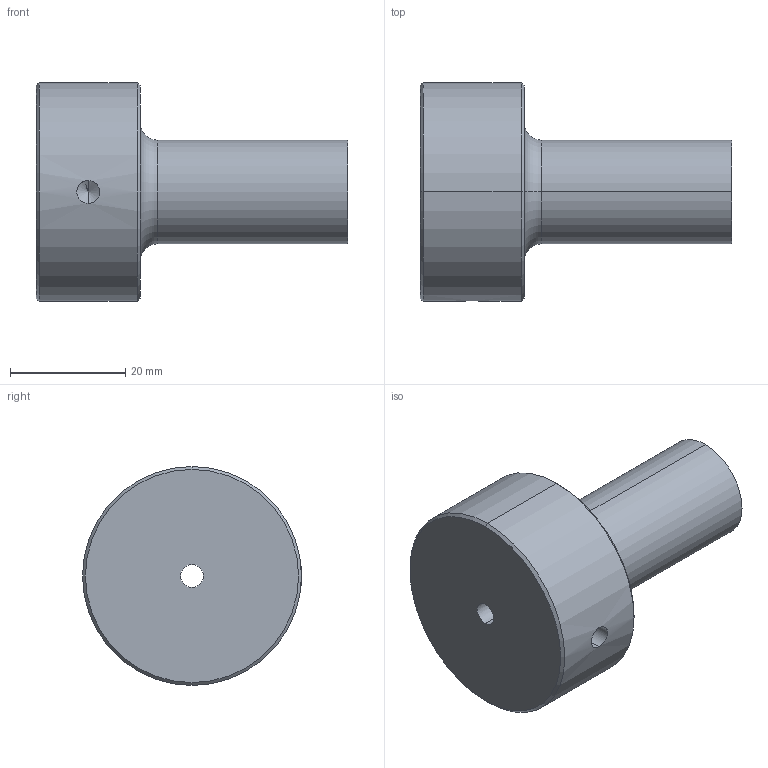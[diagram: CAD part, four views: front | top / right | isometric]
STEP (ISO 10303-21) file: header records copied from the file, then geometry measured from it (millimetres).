
FILE_DESCRIPTION (( 'STEP AP214' ), '1' );
FILE_NAME ('DHR74_18x36x4.STEP', '2015-12-09T17:41:24', ( '' ), ( '' ), 'SwSTEP 2.0', 'SolidWorks 2014', '' );
FILE_SCHEMA (( 'AUTOMOTIVE_DESIGN' ));
Length unit declared in the file: millimetre
Products named in the file (1): DHR74_18x36x4
Bounding box: 54 x 38 x 38 mm (x, y, z)
Volume: 28453.6 mm3; surface area: 7266.6 mm2
Topology: 1 solids, 1 shells, 23 faces, 50 edges, 28 vertices
Faces by surface type: cone 10, cylinder 8, plane 3, torus 2
Entity records: 690 total; most frequent: CARTESIAN_POINT 152, DIRECTION 118, ORIENTED_EDGE 92, AXIS2_PLACEMENT_3D 50, EDGE_CURVE 46, VERTEX_POINT 28, EDGE_LOOP 28, CIRCLE 26
